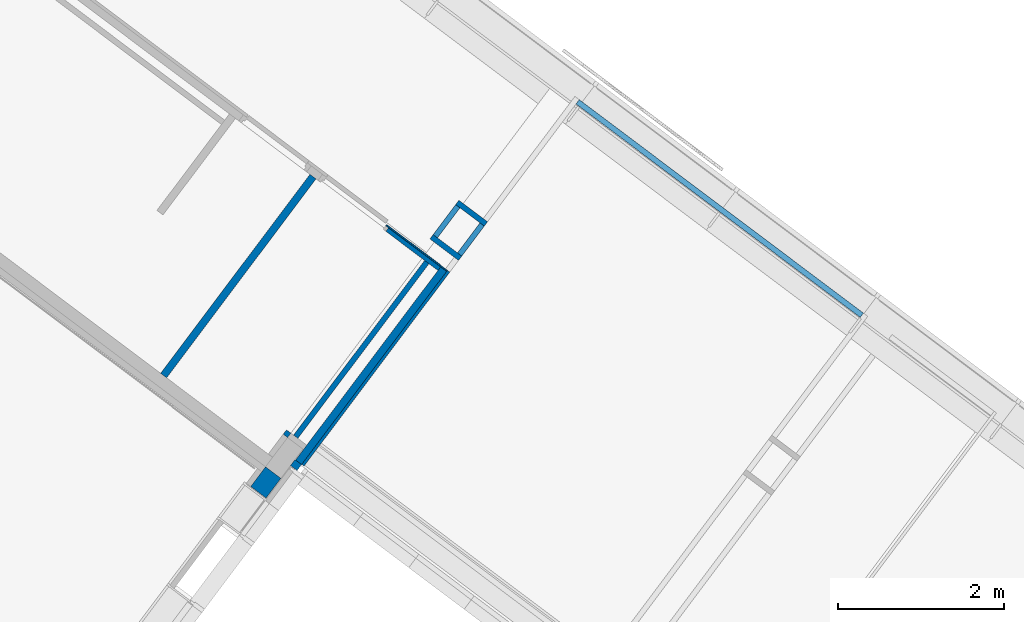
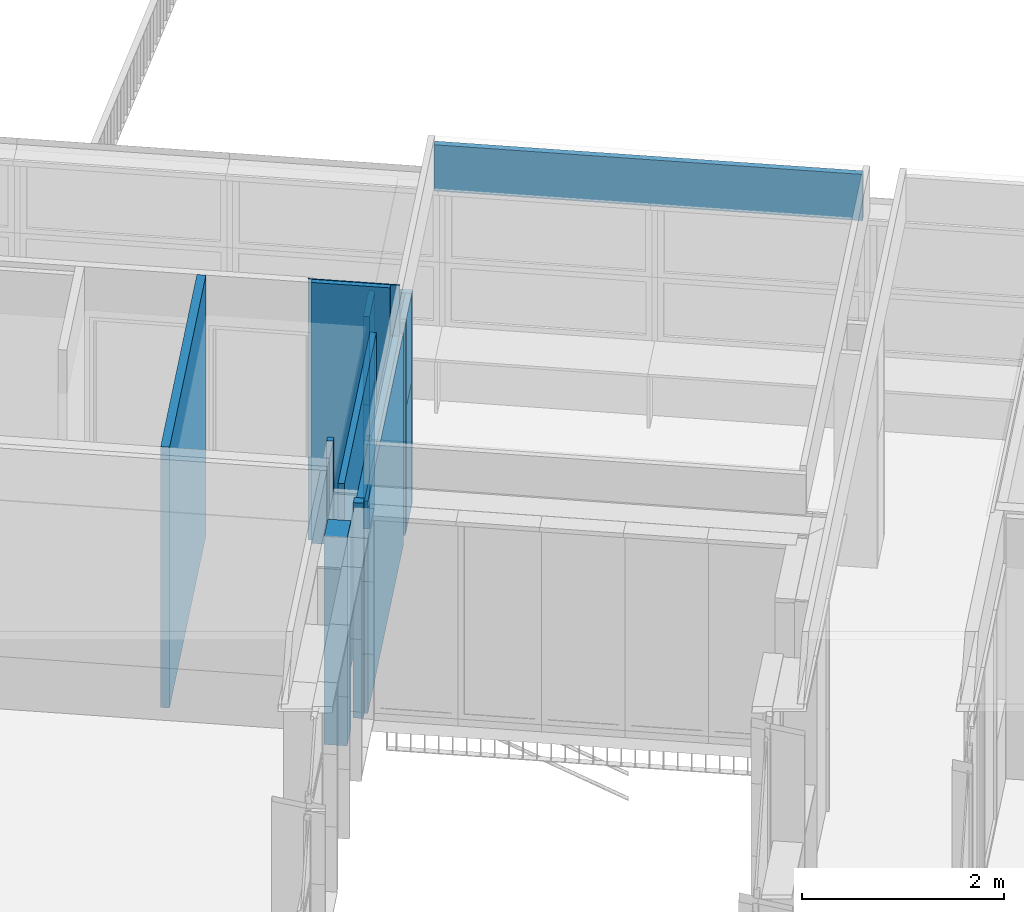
# One storey, part 127 of 243: 16 walls, 1 opening.
"""IFC2X3 building model written with IfcOpenShell, lengths in metres."""

from ifc_helpers import new_model, entity, si_unit, converted_unit, derived_unit, direction, frame, frame_2d, origin, place, context, subcontext, project, spatial, rectangle, extrude, material, layer, layer_set, layer_usage, type_object, element, save


model = new_model("IFC2X3")

# Units and contexts
model_context = context("Model", 3, precision=1e-05, world=origin(), true_north=direction((6.123031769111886e-17, 1.0)))
body_context = subcontext(model_context, "Body", "Model", "MODEL_VIEW")
ifc_project = project(units=[si_unit("LENGTHUNIT", "METRE"), si_unit("AREAUNIT", "SQUARE_METRE"), si_unit("VOLUMEUNIT", "CUBIC_METRE"), converted_unit("PLANEANGLEUNIT", "DEGREE", entity("IfcRatioMeasure", 0.017453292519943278), si_unit("PLANEANGLEUNIT", "RADIAN"), dimensions=[0, 0, 0, 0, 0, 0, 0]), si_unit("MASSUNIT", "GRAM", prefix="KILO"), derived_unit("MASSDENSITYUNIT", [(si_unit("MASSUNIT", "GRAM", prefix="KILO"), 1), (si_unit("LENGTHUNIT", "METRE"), -3)]), derived_unit("IONCONCENTRATIONUNIT", [(si_unit("MASSUNIT", "GRAM", prefix="KILO"), 1), (si_unit("LENGTHUNIT", "METRE"), -3)]), derived_unit("MOMENTOFINERTIAUNIT", [(si_unit("LENGTHUNIT", "METRE"), 4)]), si_unit("TIMEUNIT", "SECOND"), si_unit("FREQUENCYUNIT", "HERTZ"), si_unit("THERMODYNAMICTEMPERATUREUNIT", "DEGREE_CELSIUS"), derived_unit("THERMALTRANSMITTANCEUNIT", [(si_unit("MASSUNIT", "GRAM", prefix="KILO"), 1), (si_unit("THERMODYNAMICTEMPERATUREUNIT", "KELVIN"), -1), (si_unit("TIMEUNIT", "SECOND"), -3)]), derived_unit("THERMALCONDUCTANCEUNIT", [(si_unit("MASSUNIT", "GRAM", prefix="KILO"), 1), (si_unit("THERMODYNAMICTEMPERATUREUNIT", "KELVIN"), -1), (si_unit("TIMEUNIT", "SECOND"), -3), (si_unit("LENGTHUNIT", "METRE"), 1)]), derived_unit("VOLUMETRICFLOWRATEUNIT", [(si_unit("LENGTHUNIT", "METRE"), 3), (si_unit("TIMEUNIT", "SECOND"), -1)]), derived_unit("MASSFLOWRATEUNIT", [(si_unit("MASSUNIT", "GRAM", prefix="KILO"), 1), (si_unit("TIMEUNIT", "SECOND"), -1)]), derived_unit("ROTATIONALFREQUENCYUNIT", [(si_unit("TIMEUNIT", "SECOND"), -1)]), si_unit("ELECTRICCURRENTUNIT", "AMPERE"), si_unit("ELECTRICVOLTAGEUNIT", "VOLT"), si_unit("POWERUNIT", "WATT"), si_unit("FORCEUNIT", "NEWTON", prefix="KILO"), si_unit("ILLUMINANCEUNIT", "LUX"), si_unit("LUMINOUSFLUXUNIT", "LUMEN"), si_unit("LUMINOUSINTENSITYUNIT", "CANDELA"), derived_unit("USERDEFINED", [(si_unit("MASSUNIT", "GRAM", prefix="KILO"), -1), (si_unit("LENGTHUNIT", "METRE"), -2), (si_unit("TIMEUNIT", "SECOND"), 3), (si_unit("LUMINOUSFLUXUNIT", "LUMEN"), 1)]), derived_unit("USERDEFINED", [(si_unit("MASSUNIT", "GRAM", prefix="KILO"), 1), (si_unit("TIMEUNIT", "SECOND"), -3), (si_unit("LENGTHUNIT", "METRE"), 3), (si_unit("ELECTRICCURRENTUNIT", "AMPERE"), -2)]), derived_unit("SOUNDPOWERUNIT", [(si_unit("MASSUNIT", "GRAM", prefix="KILO"), 1), (si_unit("TIMEUNIT", "SECOND"), -3), (si_unit("LENGTHUNIT", "METRE"), 2)]), derived_unit("SOUNDPRESSUREUNIT", [(si_unit("MASSUNIT", "GRAM", prefix="KILO"), 1), (si_unit("LENGTHUNIT", "METRE"), -1), (si_unit("TIMEUNIT", "SECOND"), -2)]), derived_unit("LINEARVELOCITYUNIT", [(si_unit("LENGTHUNIT", "METRE"), 1), (si_unit("TIMEUNIT", "SECOND"), -1)]), si_unit("PRESSUREUNIT", "PASCAL"), derived_unit("USERDEFINED", [(si_unit("MASSUNIT", "GRAM", prefix="KILO"), 1), (si_unit("LENGTHUNIT", "METRE"), -2), (si_unit("TIMEUNIT", "SECOND"), -2)]), derived_unit("LINEARFORCEUNIT", [(si_unit("MASSUNIT", "GRAM", prefix="KILO"), 1), (si_unit("TIMEUNIT", "SECOND"), -2)]), derived_unit("PLANARFORCEUNIT", [(si_unit("MASSUNIT", "GRAM", prefix="KILO"), 1), (si_unit("LENGTHUNIT", "METRE"), -1), (si_unit("TIMEUNIT", "SECOND"), -2)]), derived_unit("SPECIFICHEATCAPACITYUNIT", [(si_unit("THERMODYNAMICTEMPERATUREUNIT", "KELVIN"), -1), (si_unit("LENGTHUNIT", "METRE"), 2), (si_unit("TIMEUNIT", "SECOND"), -2)]), derived_unit("HEATINGVALUEUNIT", [(si_unit("LENGTHUNIT", "METRE"), 2), (si_unit("TIMEUNIT", "SECOND"), -2)]), derived_unit("VAPORPERMEABILITYUNIT", [(si_unit("LENGTHUNIT", "METRE"), -1), (si_unit("TIMEUNIT", "SECOND"), 1)]), derived_unit("DYNAMICVISCOSITYUNIT", [(si_unit("MASSUNIT", "GRAM", prefix="KILO"), 1), (si_unit("TIMEUNIT", "SECOND"), -1), (si_unit("LENGTHUNIT", "METRE"), -1)]), derived_unit("THERMALEXPANSIONCOEFFICIENTUNIT", [(si_unit("THERMODYNAMICTEMPERATUREUNIT", "KELVIN"), -1)]), derived_unit("MODULUSOFELASTICITYUNIT", [(si_unit("MASSUNIT", "GRAM", prefix="KILO"), 1), (si_unit("LENGTHUNIT", "METRE"), -1), (si_unit("TIMEUNIT", "SECOND"), -2)]), derived_unit("ISOTHERMALMOISTURECAPACITYUNIT", [(si_unit("LENGTHUNIT", "METRE"), 3), (si_unit("MASSUNIT", "GRAM", prefix="KILO"), -1)]), derived_unit("MOISTUREDIFFUSIVITYUNIT", [(si_unit("TIMEUNIT", "SECOND"), -1), (si_unit("LENGTHUNIT", "METRE"), 2)])], contexts=[model_context])

# Site, building, storey
site_placement = place(None, frame((0.0, 0.0, 235.0), z_axis=(0.0, 0.0, 1.0), x_axis=(-0.7996477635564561, 0.6004693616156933, 0.0)))
site = spatial("IfcSite", under=ifc_project, at=site_placement, Name="Default", CompositionType="ELEMENT")
building_placement = place(site_placement, origin())
building = spatial("IfcBuilding", under=site, at=building_placement, CompositionType="ELEMENT")
storey_placement = place(building_placement, origin())
storey = spatial("IfcBuildingStorey", under=building, at=storey_placement, Name="P0- Escola", CompositionType="ELEMENT", Elevation=0.0)

# Walls
ifc_material_1 = material(Name="_Fusta massisa- T1-  REV- PAV")
ifc_layer_1 = layer(ifc_material_1, 0.015)
ifc_material_2 = material(Name="_Genèric perfils, muntants, rastrells")
ifc_layer_2 = layer(ifc_material_2, 0.05)
ifc_layer_set_1 = layer_set([ifc_layer_1, ifc_layer_2], Name="Muro básico:REV- Fusta- T1- 6,5 cm")
ifc_layer_usage_1 = layer_usage(ifc_layer_set_1, "AXIS2", "NEGATIVE", 0.0325)
wall_type_1 = type_object("IfcWallType", Name="Muro básico:REV- Fusta- T1- 6,5 cm", PredefinedType="STANDARD", material=ifc_layer_set_1)
wall_1_placement = place(storey_placement, frame((53.71264768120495, -40.14019175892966, 0.0), z_axis=(0.0, 0.0, 1.0), x_axis=(0.0, 1.0, 0.0)))
element("IfcWallStandardCase", 1, at=wall_1_placement, inside=storey, type_object=wall_type_1, material=ifc_layer_usage_1, Name="Muro básico:REV- Fusta- T1- 6,5 cm", ObjectType="Muro básico:REV- Fusta- T1- 6,5 cm", context=body_context, shape_type="SweptSolid", body=[
    extrude(rectangle(XDim=0.45000000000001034, YDim=0.06500000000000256, at=frame_2d((0.22500000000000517, 0.0), x_axis=(-1.0, 0.0))), origin(), (0.0, 0.0, 1.0), 1.4999999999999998),
])
ifc_layer_usage_2 = layer_usage(ifc_layer_set_1, "AXIS2", "POSITIVE", -0.0325)
wall_2_placement = place(storey_placement, frame((54.07764768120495, -40.14019175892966, 0.0), z_axis=(0.0, 0.0, 1.0), x_axis=(0.0, 1.0, 0.0)))
element("IfcWallStandardCase", 2, at=wall_2_placement, inside=storey, type_object=wall_type_1, material=ifc_layer_usage_2, Name="Muro básico:REV- Fusta- T1- 6,5 cm", ObjectType="Muro básico:REV- Fusta- T1- 6,5 cm", context=body_context, shape_type="SweptSolid", body=[
    extrude(rectangle(XDim=0.45000000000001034, YDim=0.06500000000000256, at=frame_2d((0.22500000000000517, 0.0), x_axis=(-1.0, 0.0))), origin(), (0.0, 0.0, 1.0), 1.4999999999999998),
])
wall_3_placement = place(storey_placement, frame((54.11014768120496, -39.657691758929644, 0.0), z_axis=(0.0, 0.0, 1.0), x_axis=(-1.0, 0.0, 0.0)))
element("IfcWallStandardCase", 3, at=wall_3_placement, inside=storey, type_object=wall_type_1, material=ifc_layer_usage_2, Name="Muro básico:REV- Fusta- T1- 6,5 cm", ObjectType="Muro básico:REV- Fusta- T1- 6,5 cm", context=body_context, shape_type="SweptSolid", body=[
    extrude(rectangle(XDim=0.4300000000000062, YDim=0.06500000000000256, at=frame_2d((0.2150000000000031, 0.0), x_axis=(-1.0, 0.0))), origin(), (0.0, 0.0, 1.0), 2.5650000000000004),
])
wall_4_placement = place(storey_placement, frame((54.11014768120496, -40.17269175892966, 0.0), z_axis=(0.0, 0.0, 1.0), x_axis=(-1.0, 0.0, 0.0)))
element("IfcWallStandardCase", 4, at=wall_4_placement, inside=storey, type_object=wall_type_1, material=ifc_layer_usage_1, Name="Muro básico:REV- Fusta- T1- 6,5 cm", ObjectType="Muro básico:REV- Fusta- T1- 6,5 cm", context=body_context, shape_type="SweptSolid", body=[
    extrude(rectangle(XDim=0.4300000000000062, YDim=0.06500000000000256, at=frame_2d((0.2150000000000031, 0.0), x_axis=(-1.0, 0.0))), origin(), (0.0, 0.0, 1.0), 2.5650000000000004),
])
ifc_material_3 = material(Name="_Ceràmica- ENV")
ifc_layer_3 = layer(ifc_material_3, 0.09)
ifc_layer_set_2 = layer_set([ifc_layer_3], Name="Muro básico:ENV- Ceràmic- 9 cm")
ifc_layer_usage_3 = layer_usage(ifc_layer_set_2, "AXIS2", "NEGATIVE", 0.045)
wall_type_2 = type_object("IfcWallType", Name="Muro básico:ENV- Ceràmic- 9 cm", PredefinedType="STANDARD", material=ifc_layer_set_2)
wall_5_placement = place(storey_placement, frame((53.76014768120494, -36.531389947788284, 0.0), z_axis=(0.0, 0.0, 1.0), x_axis=(0.0, -1.0, 0.0)))
element("IfcWallStandardCase", 5, at=wall_5_placement, inside=storey, type_object=wall_type_2, material=ifc_layer_usage_3, Name="Muro básico:ENV- Ceràmic- 9 cm", ObjectType="Muro básico:ENV- Ceràmic- 9 cm", context=body_context, shape_type="SweptSolid", body=[
    extrude(rectangle(XDim=2.9038018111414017, YDim=0.08999999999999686, at=frame_2d((1.4519009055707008, 8.014422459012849e-16), x_axis=(-1.0, 0.0))), origin(), (0.0, 0.0, 1.0), 2.5350000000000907),
])
wall_6_placement = place(storey_placement, frame((55.683147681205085, -39.38019175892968, 0.0), z_axis=(0.0, 0.0, 1.0), x_axis=(0.0, 1.0, 0.0)))
element("IfcWallStandardCase", 6, at=wall_6_placement, inside=storey, type_object=wall_type_2, material=ifc_layer_usage_3, Name="Muro básico:ENV- Ceràmic- 9 cm", ObjectType="Muro básico:ENV- Ceràmic- 9 cm", context=body_context, shape_type="SweptSolid", body=[
    extrude(rectangle(XDim=2.9900000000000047, YDim=0.08999999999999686, at=frame_2d((1.4950000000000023, 0.0), x_axis=(-1.0, 0.0))), origin(), (0.0, 0.0, 1.0), 3.150000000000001),
])
wall_7_placement = place(storey_placement, frame((53.715147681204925, -36.48638994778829, 0.0)))
element("IfcWallStandardCase", 7, at=wall_7_placement, inside=storey, type_object=wall_type_2, material=ifc_layer_usage_3, Name="Muro básico:ENV- Ceràmic- 9 cm", ObjectType="Muro básico:ENV- Ceràmic- 9 cm", context=body_context, shape_type="SweptSolid", body=[
    extrude(rectangle(XDim=0.10000000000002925, YDim=0.08999999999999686, at=frame_2d((0.05000000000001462, 0.0), x_axis=(-1.0, 0.0))), origin(), (0.0, 0.0, 1.0), 2.6000000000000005),
])
ifc_layer_4 = layer(ifc_material_1, 0.015)
ifc_layer_5 = layer(ifc_material_2, 0.02)
ifc_layer_set_3 = layer_set([ifc_layer_4, ifc_layer_5], Name="Muro básico:REV- Fusta- T1- 3,5 cm")
ifc_layer_usage_4 = layer_usage(ifc_layer_set_3, "AXIS2", "POSITIVE", -0.0175)
wall_type_3 = type_object("IfcWallType", Name="Muro básico:REV- Fusta- T1- 3,5 cm", PredefinedType="STANDARD", material=ifc_layer_set_3)
wall_8_placement = place(storey_placement, frame((53.697647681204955, -36.53519175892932, 0.0), z_axis=(0.0, 0.0, 1.0), x_axis=(0.0, -1.0, 0.0)))
element("IfcWallStandardCase", 8, at=wall_8_placement, inside=storey, type_object=wall_type_3, material=ifc_layer_usage_4, Name="Muro básico:REV- Fusta- T1- 3,5 cm", ObjectType="Muro básico:REV- Fusta- T1- 3,5 cm", context=body_context, shape_type="SweptSolid", body=[
    extrude(rectangle(XDim=2.915000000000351, YDim=0.034999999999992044, at=frame_2d((1.4575000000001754, 3.642919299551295e-17), x_axis=(-1.0, 0.0))), origin(), (0.0, 0.0, 1.0), 2.5649999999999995),
])
ifc_material_4 = material(Name="_Guix laminat- ENV")
ifc_layer_6 = layer(ifc_material_4, 0.02)
ifc_material_5 = material(Name="_Aillament")
ifc_layer_7 = layer(ifc_material_5, 0.045)
ifc_layer_set_4 = layer_set([ifc_layer_6, ifc_layer_7], Name="Muro básico:REV- Guix Laminat Extradossat- Aillament- T1- 6,5 cm")
ifc_layer_usage_5 = layer_usage(ifc_layer_set_4, "AXIS2", "POSITIVE", -0.032499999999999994)
wall_type_4 = type_object("IfcWallType", Name="Muro básico:REV- Guix Laminat Extradossat- Aillament- T1- 6,5 cm", PredefinedType="STANDARD", material=ifc_layer_set_4)
wall_9_placement = place(storey_placement, frame((53.97264768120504, -39.38019175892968, 0.0), z_axis=(0.0, 0.0, 1.0), x_axis=(0.0, 1.0, 0.0)))
element("IfcWallStandardCase", 9, at=wall_9_placement, inside=storey, type_object=wall_type_4, material=ifc_layer_usage_5, Name="Muro básico:REV- Guix Laminat Extradossat- Aillament- T1- 6,5 cm", ObjectType="Muro básico:REV- Guix Laminat Extradossat- Aillament- T1- 6,5 cm", context=body_context, shape_type="SweptSolid", body=[
    extrude(rectangle(XDim=2.6250000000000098, YDim=0.06500000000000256, at=frame_2d((1.3125000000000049, 0.0), x_axis=(-1.0, 0.0))), origin(), (0.0, 0.0, 1.0), 2.6000000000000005),
])
wall_10_placement = place(storey_placement, frame((53.68014768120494, -42.00769175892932, 2.524999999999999), z_axis=(0.0, 0.0, 1.0), x_axis=(-1.0, 0.0, 0.0)))
element("IfcWallStandardCase", 10, at=wall_10_placement, inside=storey, type_object=wall_type_4, material=ifc_layer_usage_5, Name="Muro básico:REV- Guix Laminat Extradossat- Aillament- T1- 6,5 cm", ObjectType="Muro básico:REV- Guix Laminat Extradossat- Aillament- T1- 6,5 cm", context=body_context, shape_type="SweptSolid", body=[
    extrude(rectangle(XDim=4.269999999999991, YDim=0.06500000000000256, at=frame_2d((2.1349999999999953, 0.0), x_axis=(-1.0, 0.0))), origin(), (0.0, 0.0, 1.0), 0.5600000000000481),
])
wall_11_placement = place(storey_placement, frame((54.045147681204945, -36.72269175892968, 0.0)))
element("IfcWallStandardCase", 11, at=wall_11_placement, inside=storey, type_object=wall_type_4, material=ifc_layer_usage_5, Name="Muro básico:REV- Guix Laminat Extradossat- Aillament- T1- 6,5 cm", ObjectType="Muro básico:REV- Guix Laminat Extradossat- Aillament- T1- 6,5 cm", context=body_context, shape_type="SweptSolid", body=[
    extrude(rectangle(XDim=0.06500000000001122, YDim=0.06500000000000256, at=frame_2d((0.03250000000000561, 0.0), x_axis=(-1.0, 0.0))), origin(), (0.0, 0.0, 1.0), 3.150000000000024),
])
ifc_layer_8 = layer(ifc_material_3, 0.23)
ifc_layer_set_5 = layer_set([ifc_layer_8], Name="Muro básico:ENV- Ceràmic Replè- 23 cm")
ifc_layer_usage_6 = layer_usage(ifc_layer_set_5, "AXIS2", "POSITIVE", -0.115)
wall_type_5 = type_object("IfcWallType", Name="Muro básico:ENV- Ceràmic Replè- 23 cm", PredefinedType="STANDARD", material=ifc_layer_set_5)
wall_12_placement = place(storey_placement, frame((53.930147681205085, -35.95318997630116, 0.0), z_axis=(0.0, 0.0, 1.0), x_axis=(0.0, -1.0, 0.0)))
element("IfcWallStandardCase", 12, at=wall_12_placement, inside=storey, type_object=wall_type_5, material=ifc_layer_usage_6, Name="Muro básico:ENV- Ceràmic Replè- 23 cm", ObjectType="Muro básico:ENV- Ceràmic Replè- 23 cm", context=body_context, shape_type="SweptSolid", body=[
    extrude(rectangle(XDim=0.2970017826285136, YDim=0.2299999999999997, at=frame_2d((0.1485008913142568, 0.0), x_axis=(-1.0, 0.0))), origin(), (0.0, 0.0, 1.0), 2.514054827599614),
])
ifc_layer_9 = layer(ifc_material_4, 0.015)
ifc_layer_10 = layer(ifc_material_2, 0.05)
ifc_layer_set_6 = layer_set([ifc_layer_9, ifc_layer_10], Name="Muro básico:REV- Guix Laminat Extradossat- T1- 6,5 cm")
ifc_layer_usage_7 = layer_usage(ifc_layer_set_6, "AXIS2", "NEGATIVE", 0.0325)
wall_type_6 = type_object("IfcWallType", Name="Muro básico:REV- Guix Laminat Extradossat- T1- 6,5 cm", PredefinedType="STANDARD", material=ifc_layer_set_6)
wall_13_placement = place(storey_placement, frame((53.71264768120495, -40.14019175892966, 1.5000000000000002), z_axis=(0.0, 0.0, 1.0), x_axis=(0.0, 1.0, 0.0)))
element("IfcWallStandardCase", 13, at=wall_13_placement, inside=storey, type_object=wall_type_6, material=ifc_layer_usage_7, Name="Muro básico:REV- Guix Laminat Extradossat- T1- 6,5 cm", ObjectType="Muro básico:REV- Guix Laminat Extradossat- T1- 6,5 cm", context=body_context, shape_type="SweptSolid", body=[
    extrude(rectangle(XDim=0.45000000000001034, YDim=0.06500000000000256, at=frame_2d((0.22500000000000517, 0.0), x_axis=(-1.0, 0.0))), origin(), (0.0, 0.0, 1.0), 1.0650000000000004),
])
ifc_layer_usage_8 = layer_usage(ifc_layer_set_6, "AXIS2", "POSITIVE", -0.0325)
wall_14_placement = place(storey_placement, frame((54.07764768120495, -40.14019175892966, 1.5000000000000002), z_axis=(0.0, 0.0, 1.0), x_axis=(0.0, 1.0, 0.0)))
element("IfcWallStandardCase", 14, at=wall_14_placement, inside=storey, type_object=wall_type_6, material=ifc_layer_usage_8, Name="Muro básico:REV- Guix Laminat Extradossat- T1- 6,5 cm", ObjectType="Muro básico:REV- Guix Laminat Extradossat- T1- 6,5 cm", context=body_context, shape_type="SweptSolid", body=[
    extrude(rectangle(XDim=0.45000000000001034, YDim=0.06500000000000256, at=frame_2d((0.22500000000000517, 0.0), x_axis=(-1.0, 0.0))), origin(), (0.0, 0.0, 1.0), 1.0650000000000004),
])

# Wall, opening
ifc_layer_11 = layer(ifc_material_3, 0.055)
ifc_layer_set_7 = layer_set([ifc_layer_11], Name="Muro básico:ENV- Ceràmic- 5,5 cm")
ifc_layer_usage_9 = layer_usage(ifc_layer_set_7, "AXIS2", "POSITIVE", -0.0275)
wall_type_7 = type_object("IfcWallType", Name="Muro básico:ENV- Ceràmic- 5,5 cm", PredefinedType="STANDARD", material=ifc_layer_set_7)
wall_15_placement = place(storey_placement, frame((53.80514768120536, -39.40769175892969, 0.0)))
wall_15 = element("IfcWallStandardCase", 15, at=wall_15_placement, inside=storey, type_object=wall_type_7, material=ifc_layer_usage_9, Name="Muro básico:ENV- Ceràmic- 5,5 cm", ObjectType="Muro básico:ENV- Ceràmic- 5,5 cm", context=body_context, shape_type="SweptSolid", body=[
    extrude(rectangle(XDim=0.782999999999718, YDim=0.05500000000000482, at=frame_2d((0.391499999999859, 0.0), x_axis=(-1.0, 0.0))), origin(), (0.0, 0.0, 1.0), 3.1500000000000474),
])
opening_placement = place(wall_15_placement, frame((0.7829999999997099, -1.4964999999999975, 0.0)))
element("IfcOpeningElement", 16, at=opening_placement, cuts=wall_15, Name="Muro básico:ENV- Ceràmic- 5,5 cm", ObjectType="Opening", context=body_context, shape_type="SweptSolid", body=[
    extrude(rectangle(XDim=2.544999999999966, YDim=1.020000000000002, at=frame_2d((0.0, 4.3298697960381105e-15), x_axis=(1.0, 0.0))), frame((0.5099999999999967, 0.0, 1.272499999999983), z_axis=(0.0, 1.0, 0.0), x_axis=(0.0, 0.0, 1.0)), (0.0, 0.0, 1.0), 3.048),
])

# Wall
ifc_layer_12 = layer(ifc_material_1, 0.015)
ifc_layer_set_8 = layer_set([ifc_layer_12], Name="Muro básico:REV- Fusta- T1- 1,5cm")
ifc_layer_usage_10 = layer_usage(ifc_layer_set_8, "AXIS2", "POSITIVE", -0.0075)
wall_type_8 = type_object("IfcWallType", Name="Muro básico:REV- Fusta- T1- 1,5cm", PredefinedType="STANDARD", material=ifc_layer_set_8)
wall_16_placement = place(storey_placement, frame((53.71514768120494, -39.442691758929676, 0.0)))
element("IfcWallStandardCase", 17, at=wall_16_placement, inside=storey, type_object=wall_type_8, material=ifc_layer_usage_10, Name="Muro básico:REV- Fusta- T1- 1,5cm", ObjectType="Muro básico:REV- Fusta- T1- 1,5cm", context=body_context, shape_type="SweptSolid", body=[
    extrude(rectangle(XDim=0.9130000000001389, YDim=0.01499999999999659, at=frame_2d((0.45650000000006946, 0.0), x_axis=(-1.0, 0.0))), origin(), (0.0, 0.0, 1.0), 3.1500000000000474),
])

save(model, "model.ifc")
